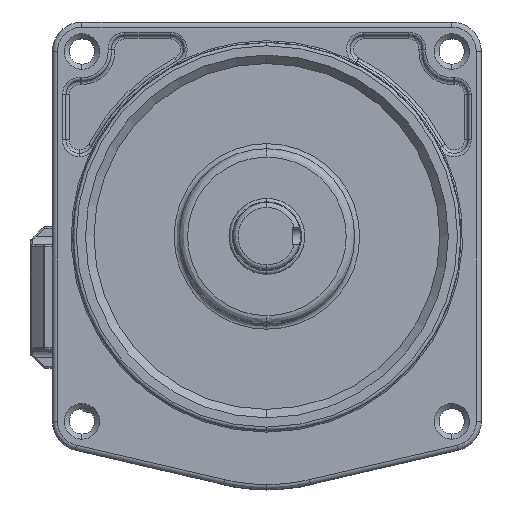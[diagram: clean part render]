
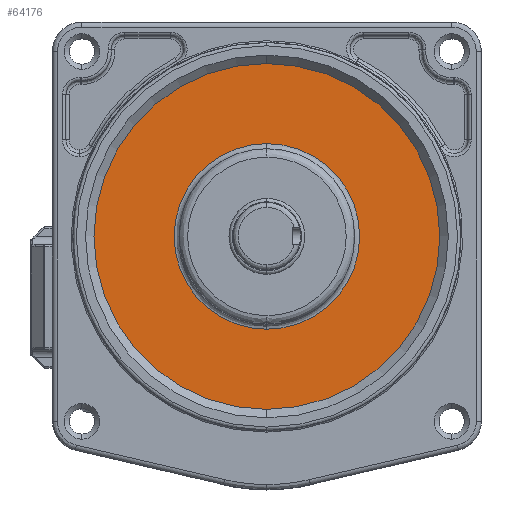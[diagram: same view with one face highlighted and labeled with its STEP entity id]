
A CAD part, top view. The second image highlights one B-rep face of the part: STEP entity #64176.
In plain terms, the highlighted planar face has unit normal (0, 0, 1).
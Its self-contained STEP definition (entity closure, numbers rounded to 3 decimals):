
#1105 = CARTESIAN_POINT ( 'NONE',  ( 41.529, -274.013, 211.448 ) ) ;
#6060 = CARTESIAN_POINT ( 'NONE',  ( 41.529, -226.513, 211.448 ) ) ;
#9159 = DIRECTION ( 'NONE',  ( 1., 0., 0. ) ) ;
#10253 = EDGE_LOOP ( 'NONE', ( #95324, #97301 ) ) ;
#11452 = CARTESIAN_POINT ( 'NONE',  ( 41.529, -171.513, 211.448 ) ) ;
#12511 = CARTESIAN_POINT ( 'NONE',  ( -65.071, -278.201, 211.448 ) ) ;
#13225 = ORIENTED_EDGE ( 'NONE', *, *, #32063, .F. ) ;
#13787 = AXIS2_PLACEMENT_3D ( 'NONE', #78771, #53847, #9159 ) ;
#14424 = CARTESIAN_POINT ( 'NONE',  ( 41.529, -116.513, 211.448 ) ) ;
#15116 = VERTEX_POINT ( 'NONE', #6060 ) ;
#18053 = AXIS2_PLACEMENT_3D ( 'NONE', #85693, #23485, #85140 ) ;
#19451 = AXIS2_PLACEMENT_3D ( 'NONE', #11452, #98068, #37507 ) ;
#23485 = DIRECTION ( 'NONE',  ( 0., 0., -1. ) ) ;
#27463 = VERTEX_POINT ( 'NONE', #14424 ) ;
#30026 = FACE_OUTER_BOUND ( 'NONE', #10253, .T. ) ;
#32063 = EDGE_CURVE ( 'NONE', #27463, #15116, #44716, .T. ) ;
#33330 = CARTESIAN_POINT ( 'NONE',  ( 41.529, -69.013, 211.448 ) ) ;
#37507 = DIRECTION ( 'NONE',  ( -1., 0., 0. ) ) ;
#38820 = ORIENTED_EDGE ( 'NONE', *, *, #94280, .F. ) ;
#41513 = DIRECTION ( 'NONE',  ( 0., 0., 1. ) ) ;
#43004 = EDGE_CURVE ( 'NONE', #100545, #102384, #104134, .T. ) ;
#44716 = CIRCLE ( 'NONE', #19451, 55. ) ;
#47552 = DIRECTION ( 'NONE',  ( 0., 0., 1. ) ) ;
#53847 = DIRECTION ( 'NONE',  ( 0., 0., -1. ) ) ;
#54374 = AXIS2_PLACEMENT_3D ( 'NONE', #77173, #41513, #111707 ) ;
#63994 = FACE_BOUND ( 'NONE', #90922, .T. ) ;
#64176 = ADVANCED_FACE ( 'NONE', ( #30026, #63994 ), #73634, .T. ) ;
#64575 = DIRECTION ( 'NONE',  ( 1., 0., 0. ) ) ;
#72274 = CIRCLE ( 'NONE', #18053, 102.5 ) ;
#72485 = CIRCLE ( 'NONE', #54374, 55. ) ;
#73634 = PLANE ( 'NONE',  #86582 ) ;
#77173 = CARTESIAN_POINT ( 'NONE',  ( 41.529, -171.513, 211.448 ) ) ;
#78771 = CARTESIAN_POINT ( 'NONE',  ( 41.529, -171.513, 211.448 ) ) ;
#80586 = EDGE_CURVE ( 'NONE', #102384, #100545, #72274, .T. ) ;
#85140 = DIRECTION ( 'NONE',  ( 1., 0., 0. ) ) ;
#85693 = CARTESIAN_POINT ( 'NONE',  ( 41.529, -171.513, 211.448 ) ) ;
#86582 = AXIS2_PLACEMENT_3D ( 'NONE', #12511, #47552, #64575 ) ;
#90922 = EDGE_LOOP ( 'NONE', ( #38820, #13225 ) ) ;
#94280 = EDGE_CURVE ( 'NONE', #15116, #27463, #72485, .T. ) ;
#95324 = ORIENTED_EDGE ( 'NONE', *, *, #80586, .F. ) ;
#97301 = ORIENTED_EDGE ( 'NONE', *, *, #43004, .F. ) ;
#98068 = DIRECTION ( 'NONE',  ( 0., 0., 1. ) ) ;
#100545 = VERTEX_POINT ( 'NONE', #33330 ) ;
#102384 = VERTEX_POINT ( 'NONE', #1105 ) ;
#104134 = CIRCLE ( 'NONE', #13787, 102.5 ) ;
#111707 = DIRECTION ( 'NONE',  ( -1., 0., 0. ) ) ;
